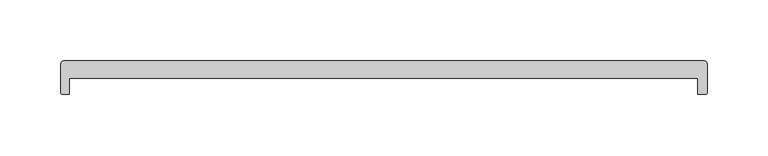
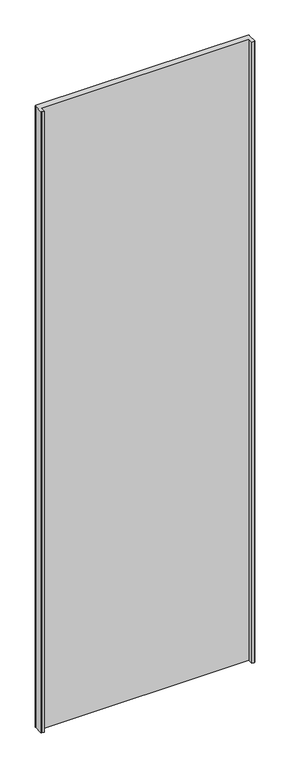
"""IFC4 building model written with IfcOpenShell, lengths in millimetres: plate geometry, Walls_Curtain-Walls_Danpal_NM : Walls_Curtain-Walls_Danpal_NM."""

from ifc_helpers import new_model, si_unit, point, frame_2d, origin, origin_with_axes, place, context, project, spatial, polyline, circle_curve, trimmed, segment, composite_curve, outline, extrude, source, transform, mapped, element, save


def plate_1633828d(model_context):
    return source(origin(), model_context, "Body", "SweptSolid", [
        extrude(outline(composite_curve([segment(trimmed(circle_curve(frame_2d((261.9253712, -2.6508813)), 2.6508813), [point((261.9253712, 0.0))], [point((264.5762525, -2.6508813))], False, "CARTESIAN"), True, "CONTINUOUS"), segment(polyline([(264.5762525, -2.6508813), (264.5762525, -26.0669991)]), True, "CONTINUOUS"), segment(trimmed(circle_curve(frame_2d((263.2508119, -26.0669991)), 1.3254406), [point((264.5762525, -26.0669991))], [point((263.2508119, -27.3924397))], False, "CARTESIAN"), True, "CONTINUOUS"), segment(polyline([(263.2508119, -27.3924397), (256.8568956, -27.3924397), (256.8568956, -14.1380334), (-258.6, -14.1225989), (-258.6, -27.3924397), (-264.2745594, -27.3924397)]), True, "CONTINUOUS"), segment(trimmed(circle_curve(frame_2d((-264.2745594, -26.0669991)), 1.3254406), [point((-264.2745594, -27.3924397))], [point((-265.6, -26.0669991))], False, "CARTESIAN"), True, "CONTINUOUS"), segment(polyline([(-265.6, -26.0669991), (-265.6, -2.6508813)]), True, "CONTINUOUS"), segment(trimmed(circle_curve(frame_2d((-262.9491187, -2.6508813)), 2.6508813), [point((-265.6, -2.6508813))], [point((-262.9491187, 0.0))], False, "CARTESIAN"), True, "CONTINUOUS"), segment(polyline([(-262.9491187, 0.0), (261.9253712, 0.0)]), True, "CONTINUOUS")], self_intersect=False)), origin_with_axes(), (0.0, 0.0, 1.0), 1629.047587),
    ])


if __name__ == "__main__":
    model = new_model("IFC4")
    model_context = context("Model", 3, world=origin())
    ifc_project = project(units=[si_unit("LENGTHUNIT", "METRE", prefix="MILLI")], contexts=[model_context])
    site = spatial("IfcSite", under=ifc_project)
    building = spatial("IfcBuilding", under=site)
    placement = place(None, origin())
    plate_shape = plate_1633828d(model_context)
    element("IfcPlate", 1, ObjectType="Walls_Curtain-Walls_Danpal_NM : Walls_Curtain-Walls_Danpal_NM", at=placement, inside=building, context=model_context, shape_type="MappedRepresentation", body=[
        mapped(plate_shape, transform((0.0, 0.0, 0.0), x_axis=(1.0, 0.0, 0.0), y_axis=(0.0, 1.0, 0.0), z_axis=(0.0, 0.0, 1.0))),
    ])
    save(model, "model.ifc")
